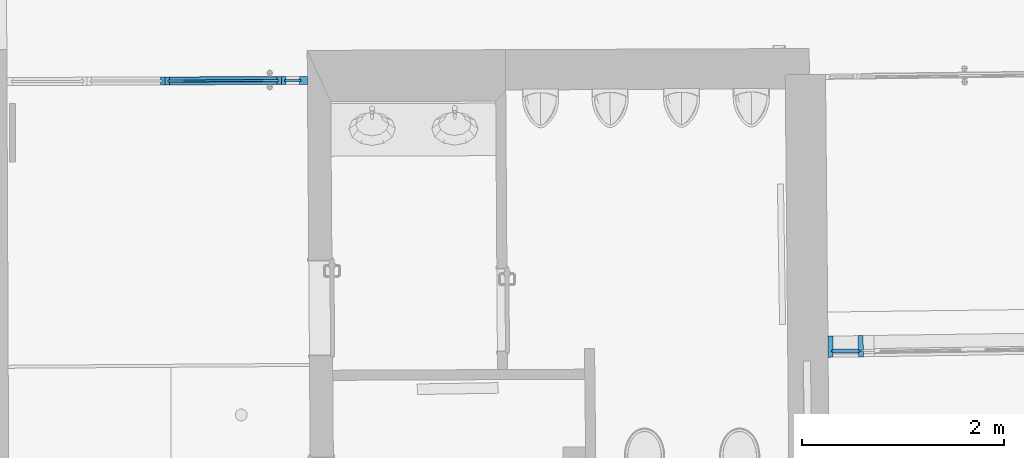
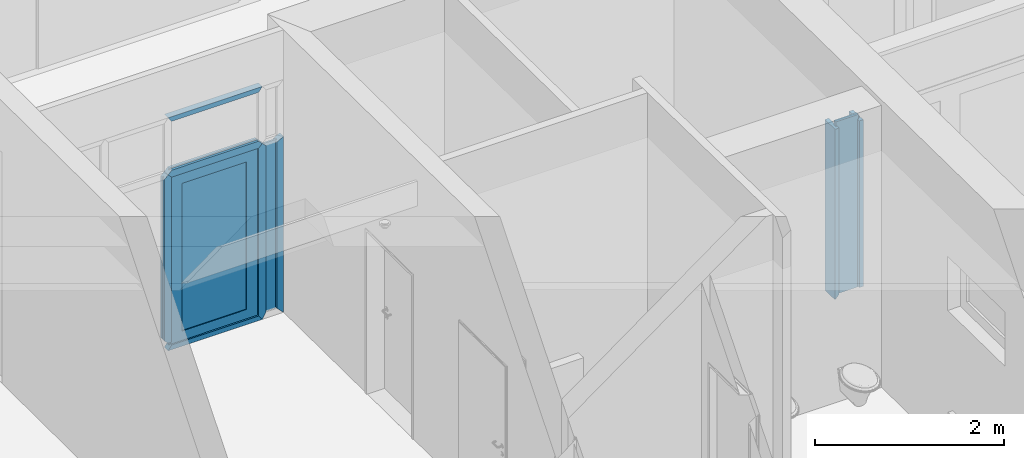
# One storey, part 125 of 196: 12 building element parts, 2 elements without a shape of their own.
"""IFC2X3 building model written with IfcOpenShell, lengths in metres."""

from ifc_helpers import new_model, entity, si_unit, converted_unit, derived_unit, money_unit, direction, frame, origin_with_axes, place, context, subcontext, project, spatial, faceted_brep, material, type_object, element, aggregate, save


model = new_model("IFC2X3")

# Units and contexts
model_context = context("Model", 3, precision=1e-05, world=origin_with_axes(), true_north=direction((0.0, 1.0)))
body_context = subcontext(model_context, "Body", "Model", "MODEL_VIEW")
ifc_project = project(units=[si_unit("LENGTHUNIT", "METRE"), si_unit("AREAUNIT", "SQUARE_METRE"), si_unit("VOLUMEUNIT", "CUBIC_METRE"), converted_unit("PLANEANGLEUNIT", "DEGREE", entity("IfcPlaneAngleMeasure", 0.0174532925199), si_unit("PLANEANGLEUNIT", "RADIAN"), dimensions=[0, 0, 0, 0, 0, 0, 0]), money_unit("EUR"), converted_unit("TIMEUNIT", "Year", entity("IfcTimeMeasure", 31556926.0), si_unit("TIMEUNIT", "SECOND"), dimensions=[0, 0, 1, 0, 0, 0, 0]), si_unit("MASSUNIT", "GRAM", prefix="KILO"), si_unit("THERMODYNAMICTEMPERATUREUNIT", "DEGREE_CELSIUS"), si_unit("LUMINOUSINTENSITYUNIT", "LUMEN"), si_unit("ENERGYUNIT", "JOULE", prefix="MEGA"), derived_unit("THERMALCONDUCTANCEUNIT", [(si_unit("POWERUNIT", "WATT"), 1), (si_unit("LENGTHUNIT", "METRE"), -1), (si_unit("THERMODYNAMICTEMPERATUREUNIT", "KELVIN"), -1)]), derived_unit("SPECIFICHEATCAPACITYUNIT", [(si_unit("ENERGYUNIT", "JOULE"), 1), (si_unit("MASSUNIT", "GRAM", prefix="KILO"), -1), (si_unit("THERMODYNAMICTEMPERATUREUNIT", "KELVIN"), -1)]), derived_unit("MASSDENSITYUNIT", [(si_unit("MASSUNIT", "GRAM", prefix="KILO"), 1), (si_unit("VOLUMEUNIT", "CUBIC_METRE"), -1)])], contexts=[model_context])

# Site, building, storey
site_placement = place(None, origin_with_axes())
site = spatial("IfcSite", under=ifc_project, at=site_placement, Name="Gelände", CompositionType="ELEMENT")
building_placement = place(site_placement, origin_with_axes())
building = spatial("IfcBuilding", under=site, at=building_placement, Name="Gebäude", CompositionType="ELEMENT")
storey_placement = place(building_placement, frame((0.0, 0.0, -3.0), z_axis=(0.0, 0.0, 1.0), x_axis=(1.0, 0.0, 0.0)))
storey = spatial("IfcBuildingStorey", under=building, at=storey_placement, Name="KELLERGESCHOSS", CompositionType="ELEMENT", Elevation=-3.0)

# Proxy, building element parts
building_element_proxy_type = type_object("IfcBuildingElementProxyType", Name="Fassadentyp", PredefinedType="NOTDEFINED")
proxy_1_placement = place(storey_placement, frame((-18.3953551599, 39.5909637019, 0.410855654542), z_axis=(0.0, 0.0, 1.0), x_axis=(1.0, 0.0, 0.0)))
proxy_1 = element("IfcBuildingElementProxy", 1, at=proxy_1_placement, inside=storey, type_object=building_element_proxy_type, Name="Fassade-002")
ifc_material_1 = material(Name="45_Glas, Normalglas")
building_element_part_1_placement = place(proxy_1_placement, origin_with_axes())
building_element_part_1 = element("IfcBuildingElementPart", 2, at=building_element_part_1_placement, material=ifc_material_1, Name="45_Glas, Normalglas", context=body_context, shape_type="Brep", body=[
    faceted_brep([(0.15192966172, 0.0222017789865, 2.25780580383), (-0.127511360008, 0.0181559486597, 2.25780580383), (-0.126932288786, -0.0218398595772, 2.25780580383), (0.152508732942, -0.0177940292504, 2.25780580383), (0.15192966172, 0.0222017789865, 2.20000001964), (0.15192966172, 0.0222017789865, 0.0350000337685), (-0.127511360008, 0.0181559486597, 0.0350000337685), (-0.127511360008, 0.0181559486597, 2.20000001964), (-0.126932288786, -0.0218398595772, 2.20000001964), (-0.126932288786, -0.0218398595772, 0.0350000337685), (0.152508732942, -0.0177940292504, 0.0350000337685), (0.152508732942, -0.0177940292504, 2.20000001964)], [[[0, 1, 2, 3]], [[0, 4, 5, 6, 7, 1]], [[1, 7, 8, 2]], [[3, 2, 8, 9, 10, 11]], [[4, 0, 3, 11]], [[5, 4, 11, 10]], [[6, 5, 10, 9]], [[7, 6, 9, 8]]]),
])
ifc_material_2 = material(Name="53_Metall, Aluminium")
building_element_part_2_placement = place(proxy_1_placement, origin_with_axes())
building_element_part_2 = element("IfcBuildingElementPart", 3, at=building_element_part_2_placement, material=ifc_material_2, Name="53_Metall, Aluminium", context=body_context, shape_type="Brep", body=[
    faceted_brep([(0.172072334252, 0.012492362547, 2.2000000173), (0.187070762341, 0.0127095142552, 2.2000000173), (0.185044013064, 0.152694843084, 2.2000000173), (0.135049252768, 0.151971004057, 2.2000000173), (0.137076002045, 0.0119856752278, 2.2000000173), (0.152074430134, 0.0122028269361, 2.2000000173), (0.152363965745, -0.00779507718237, 2.2000000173), (0.137365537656, -0.00801222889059, 2.2000000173), (0.138089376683, -0.0580069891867, 2.2000000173), (0.188084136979, -0.0572831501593, 2.2000000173), (0.187360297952, -0.00728838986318, 2.2000000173), (0.172361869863, -0.0075055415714, 2.2000000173), (0.172072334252, 0.012492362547, 0.0500000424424), (0.187070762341, 0.0127095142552, 0.0500000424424), (0.185044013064, 0.152694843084, 0.050000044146), (0.135049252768, 0.151971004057, 0.050000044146), (0.137076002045, 0.0119856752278, 0.0500000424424), (0.152074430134, 0.0122028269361, 0.0500000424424), (0.152363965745, -0.00779507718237, 0.050000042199), (0.137365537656, -0.00801222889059, 0.050000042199), (0.138089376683, -0.0580069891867, 0.0500000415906), (0.188084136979, -0.0572831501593, 0.0500000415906), (0.187360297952, -0.00728838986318, 0.050000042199), (0.172361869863, -0.0075055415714, 0.050000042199)], [[[0, 1, 2, 3, 4, 5, 6, 7, 8, 9, 10, 11]], [[1, 0, 12, 13]], [[1, 13, 14, 2]], [[2, 14, 15, 3]], [[4, 3, 15, 16]], [[4, 16, 17, 5]], [[5, 17, 18, 6]], [[7, 6, 18, 19]], [[19, 20, 8, 7]], [[8, 20, 21, 9]], [[22, 10, 9, 21]], [[11, 10, 22, 23]], [[0, 11, 23, 12]], [[23, 22, 21, 20, 19, 18, 17, 16, 15, 14, 13, 12]]]),
])
building_element_part_3_placement = place(proxy_1_placement, origin_with_axes())
building_element_part_3 = element("IfcBuildingElementPart", 4, at=building_element_part_3_placement, material=ifc_material_2, Name="53_Metall, Aluminium", context=body_context, shape_type="Brep", body=[
    faceted_brep([(-0.127366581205, 0.00815699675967, 0.0350000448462), (-0.127077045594, -0.0118409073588, 0.0350000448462), (-0.112078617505, -0.0116237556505, 0.0500000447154), (-0.111354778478, -0.0616185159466, 0.0500000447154), (-0.161349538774, -0.062342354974, 4.51515966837e-08), (-0.164389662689, 0.147635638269, 4.51515975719e-08), (-0.114394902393, 0.148359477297, 0.0500000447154), (-0.112368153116, 0.00837414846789, 0.0500000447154), (-0.127366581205, 0.00815699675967, 2.19999998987), (-0.127077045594, -0.0118409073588, 2.19999998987), (-0.112078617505, -0.0116237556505, 2.19999998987), (-0.111354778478, -0.0616185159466, 2.19999998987), (-0.161349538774, -0.062342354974, 2.19999998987), (-0.164389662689, 0.147635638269, 2.19999998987), (-0.114394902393, 0.148359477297, 2.19999998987), (-0.112368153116, 0.00837414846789, 2.19999998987)], [[[0, 1, 2, 3, 4, 5, 6, 7]], [[1, 0, 8, 9]], [[10, 2, 1, 9]], [[2, 10, 11, 3]], [[12, 4, 3, 11]], [[13, 5, 4, 12]], [[14, 6, 5, 13]], [[15, 7, 6, 14]], [[0, 7, 15, 8]], [[8, 15, 14, 13, 12, 11, 10, 9]]]),
])
aggregate(proxy_1, [building_element_part_1, building_element_part_2, building_element_part_3])

proxy_2_placement = place(storey_placement, frame((-23.852064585, 42.2751077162, 0.417602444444), z_axis=(0.0, 0.0, 1.0), x_axis=(1.0, 0.0, 0.0)))
proxy_2 = element("IfcBuildingElementProxy", 5, at=proxy_2_placement, inside=storey, type_object=building_element_proxy_type, Name="Fassade-002")
building_element_part_4_placement = place(proxy_2_placement, origin_with_axes())
building_element_part_4 = element("IfcBuildingElementPart", 6, at=building_element_part_4_placement, material=ifc_material_1, Name="45_Glas, Normalglas", context=body_context, shape_type="Brep", body=[
    faceted_brep([(0.0641194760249, 0.010256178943, 2.23924696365), (-0.0991990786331, 0.00960386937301, 2.23924696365), (-0.0991191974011, -0.0103959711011, 2.23924696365), (0.0641993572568, -0.00974366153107, 2.23924696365), (0.0641194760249, 0.010256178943, 0.0649999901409), (-0.0991990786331, 0.00960386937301, 0.0649999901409), (-0.0991191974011, -0.0103959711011, 0.0649999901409), (0.0641993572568, -0.00974366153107, 0.0649999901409)], [[[0, 1, 2, 3]], [[0, 4, 5, 1]], [[1, 5, 6, 2]], [[3, 2, 6, 7]], [[4, 0, 3, 7]], [[5, 4, 7, 6]]]),
])
building_element_part_5_placement = place(proxy_2_placement, origin_with_axes())
building_element_part_5 = element("IfcBuildingElementPart", 7, at=building_element_part_5_placement, material=ifc_material_2, Name="53_Metall, Aluminium", context=body_context, shape_type="Brep", body=[
    faceted_brep([(-0.174298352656, 0.0343041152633, 0.0599999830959), (-0.174298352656, 0.0343041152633, 2.22424697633), (-0.174278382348, 0.0293041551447, 2.22424697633), (-0.174278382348, 0.0293041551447, 0.0599999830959), (-0.219297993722, 0.0341243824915, 0.0599999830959), (-0.219297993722, 0.0341243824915, 2.17924697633), (-0.219278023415, 0.0291244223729, 2.17924697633), (-0.219278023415, 0.0291244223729, 0.0599999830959)], [[[0, 1, 2, 3]], [[0, 4, 5, 1]], [[1, 5, 6, 2]], [[3, 2, 6, 7]], [[4, 0, 3, 7]], [[5, 4, 7, 6]]]),
    faceted_brep([(-1.23715068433, 0.0300589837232, 2.22424697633), (-1.19215104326, 0.030238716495, 2.17924697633), (-1.19213107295, 0.0252387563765, 2.17924697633), (-1.23713071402, 0.0250590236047, 2.22424697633), (-0.174298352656, 0.0343041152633, 2.22424697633), (-0.219297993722, 0.0341243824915, 2.17924697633), (-0.219278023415, 0.0291244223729, 2.17924697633), (-0.174278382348, 0.0293041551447, 2.22424697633)], [[[0, 1, 2, 3]], [[0, 4, 5, 1]], [[1, 5, 6, 2]], [[3, 2, 6, 7]], [[4, 0, 3, 7]], [[5, 4, 7, 6]]]),
    faceted_brep([(-1.23715068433, 0.0300589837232, 0.0599999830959), (-1.19215104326, 0.030238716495, 0.0599999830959), (-1.19213107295, 0.0252387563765, 0.0599999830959), (-1.23713071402, 0.0250590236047, 0.0599999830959), (-1.23715068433, 0.0300589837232, 2.22424697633), (-1.19215104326, 0.030238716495, 2.17924697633), (-1.19213107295, 0.0252387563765, 2.17924697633), (-1.23713071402, 0.0250590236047, 2.22424697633)], [[[0, 1, 2, 3]], [[0, 4, 5, 1]], [[1, 5, 6, 2]], [[3, 2, 6, 7]], [[4, 0, 3, 7]], [[5, 4, 7, 6]]]),
    faceted_brep([(-0.174278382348, 0.0293041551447, 0.0599999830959), (-0.174278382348, 0.0293041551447, 2.22424697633), (-0.174078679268, -0.0206954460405, 2.22424697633), (-0.174078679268, -0.0206954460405, 0.0599999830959), (-0.194278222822, 0.0292242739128, 0.0599999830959), (-0.194278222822, 0.0292242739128, 2.20424697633), (-0.194078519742, -0.0207753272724, 2.20424697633), (-0.194078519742, -0.0207753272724, 0.0599999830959)], [[[0, 1, 2, 3]], [[0, 4, 5, 1]], [[1, 5, 6, 2]], [[3, 2, 6, 7]], [[4, 0, 3, 7]], [[5, 4, 7, 6]]]),
    faceted_brep([(-1.23713071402, 0.0250590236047, 2.22424697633), (-1.21713087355, 0.0251389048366, 2.20424697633), (-1.21693117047, -0.0248606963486, 2.20424697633), (-1.23693101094, -0.0249405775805, 2.22424697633), (-0.174278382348, 0.0293041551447, 2.22424697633), (-0.194278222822, 0.0292242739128, 2.20424697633), (-0.194078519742, -0.0207753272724, 2.20424697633), (-0.174078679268, -0.0206954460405, 2.22424697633)], [[[0, 1, 2, 3]], [[0, 4, 5, 1]], [[1, 5, 6, 2]], [[3, 2, 6, 7]], [[4, 0, 3, 7]], [[5, 4, 7, 6]]]),
    faceted_brep([(-1.23713071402, 0.0250590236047, 0.0599999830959), (-1.21713087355, 0.0251389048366, 0.0599999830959), (-1.21693117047, -0.0248606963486, 0.0599999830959), (-1.23693101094, -0.0249405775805, 0.0599999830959), (-1.23713071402, 0.0250590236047, 2.22424697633), (-1.21713087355, 0.0251389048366, 2.20424697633), (-1.21693117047, -0.0248606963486, 2.20424697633), (-1.23693101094, -0.0249405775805, 2.22424697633)], [[[0, 1, 2, 3]], [[0, 4, 5, 1]], [[1, 5, 6, 2]], [[3, 2, 6, 7]], [[4, 0, 3, 7]], [[5, 4, 7, 6]]]),
    faceted_brep([(-1.25205070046, 0.00499927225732, 0.0449999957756), (-0.159198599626, 0.00936422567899, 0.0449999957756), (-0.159118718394, -0.0106356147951, 0.0449999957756), (-1.25197081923, -0.0150005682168, 0.0449999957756), (-1.23705083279, 0.00505918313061, 0.0599999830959), (-0.174198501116, 0.00930431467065, 0.0599999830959), (-0.174118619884, -0.0106955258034, 0.0599999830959), (-1.23697095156, -0.0149406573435, 0.0599999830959)], [[[0, 1, 2, 3]], [[0, 4, 5, 1]], [[1, 5, 6, 2]], [[3, 2, 6, 7]], [[4, 0, 3, 7]], [[5, 4, 7, 6]]]),
    faceted_brep([(-0.159198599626, 0.00936422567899, 0.0449999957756), (-0.159198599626, 0.00936422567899, 2.23924696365), (-0.159118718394, -0.0106356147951, 2.23924696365), (-0.159118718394, -0.0106356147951, 0.0449999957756), (-0.174198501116, 0.00930431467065, 0.0599999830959), (-0.174198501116, 0.00930431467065, 2.22424697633), (-0.174118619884, -0.0106955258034, 2.22424697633), (-0.174118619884, -0.0106955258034, 0.0599999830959)], [[[0, 1, 2, 3]], [[0, 4, 5, 1]], [[1, 5, 6, 2]], [[3, 2, 6, 7]], [[4, 0, 3, 7]], [[5, 4, 7, 6]]]),
    faceted_brep([(-0.159198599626, 0.00936422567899, 2.23924696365), (-1.25205070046, 0.00499927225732, 2.23924696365), (-1.25197081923, -0.0150005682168, 2.23924696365), (-0.159118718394, -0.0106356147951, 2.23924696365), (-0.174198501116, 0.00930431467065, 2.22424697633), (-1.23705083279, 0.00505918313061, 2.22424697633), (-1.23697095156, -0.0149406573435, 2.22424697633), (-0.174118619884, -0.0106955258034, 2.22424697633)], [[[0, 1, 2, 3]], [[0, 4, 5, 1]], [[1, 5, 6, 2]], [[3, 2, 6, 7]], [[4, 0, 3, 7]], [[5, 4, 7, 6]]]),
    faceted_brep([(-1.25205070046, 0.00499927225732, 2.23924696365), (-1.25205070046, 0.00499927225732, 0.0449999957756), (-1.25197081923, -0.0150005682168, 0.0449999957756), (-1.25197081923, -0.0150005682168, 2.23924696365), (-1.23705083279, 0.00505918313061, 2.22424697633), (-1.23705083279, 0.00505918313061, 0.0599999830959), (-1.23697095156, -0.0149406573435, 0.0599999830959), (-1.23697095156, -0.0149406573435, 2.22424697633)], [[[0, 1, 2, 3]], [[0, 4, 5, 1]], [[1, 5, 6, 2]], [[3, 2, 6, 7]], [[4, 0, 3, 7]], [[5, 4, 7, 6]]]),
    faceted_brep([(-1.0971318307, 0.0256181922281, 0.179999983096), (-1.0971318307, 0.0256181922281, 2.08424697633), (-1.09693212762, -0.0243814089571, 2.08424697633), (-1.09693212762, -0.0243814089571, 0.179999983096), (-1.21713087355, 0.0251389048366, 0.0599999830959), (-1.21713087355, 0.0251389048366, 2.20424697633), (-1.21693117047, -0.0248606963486, 2.20424697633), (-1.21693117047, -0.0248606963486, 0.0599999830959)], [[[0, 1, 2, 3]], [[0, 4, 5, 1]], [[1, 5, 6, 2]], [[3, 2, 6, 7]], [[4, 0, 3, 7]], [[5, 4, 7, 6]]]),
    faceted_brep([(-0.194278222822, 0.0292242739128, 0.0599999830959), (-0.194278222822, 0.0292242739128, 2.20424697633), (-0.194078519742, -0.0207753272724, 2.20424697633), (-0.194078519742, -0.0207753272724, 0.0599999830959), (-0.314277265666, 0.0287449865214, 0.179999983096), (-0.314277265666, 0.0287449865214, 2.08424697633), (-0.314077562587, -0.0212546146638, 2.08424697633), (-0.314077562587, -0.0212546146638, 0.179999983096)], [[[0, 1, 2, 3]], [[0, 4, 5, 1]], [[1, 5, 6, 2]], [[3, 2, 6, 7]], [[4, 0, 3, 7]], [[5, 4, 7, 6]]]),
    faceted_brep([(-0.194278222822, 0.0292242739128, 0.0599999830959), (-0.314277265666, 0.0287449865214, 0.179999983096), (-0.314077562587, -0.0212546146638, 0.179999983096), (-0.194078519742, -0.0207753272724, 0.0599999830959), (-1.21713087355, 0.0251389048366, 0.0599999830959), (-1.0971318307, 0.0256181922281, 0.179999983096), (-1.09693212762, -0.0243814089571, 0.179999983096), (-1.21693117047, -0.0248606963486, 0.0599999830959)], [[[0, 1, 2, 3]], [[0, 4, 5, 1]], [[1, 5, 6, 2]], [[3, 2, 6, 7]], [[4, 0, 3, 7]], [[5, 4, 7, 6]]]),
    faceted_brep([(-1.21713087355, 0.0251389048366, 2.20424697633), (-1.0971318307, 0.0256181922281, 2.08424697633), (-1.09693212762, -0.0243814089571, 2.08424697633), (-1.21693117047, -0.0248606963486, 2.20424697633), (-0.194278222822, 0.0292242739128, 2.20424697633), (-0.314277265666, 0.0287449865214, 2.08424697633), (-0.314077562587, -0.0212546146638, 2.08424697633), (-0.194078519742, -0.0207753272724, 2.20424697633)], [[[0, 1, 2, 3]], [[0, 4, 5, 1]], [[1, 5, 6, 2]], [[3, 2, 6, 7]], [[4, 0, 3, 7]], [[5, 4, 7, 6]]]),
])
building_element_part_6_placement = place(proxy_2_placement, origin_with_axes())
building_element_part_6 = element("IfcBuildingElementPart", 8, at=building_element_part_6_placement, material=ifc_material_1, Name="45_Glas, Normalglas", context=body_context, shape_type="Brep", body=[
    faceted_brep([(-1.09703597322, 0.00161838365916, 0.179999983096), (-0.314181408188, 0.00474517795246, 0.179999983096), (-0.314117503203, -0.0112546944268, 0.179999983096), (-1.09697206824, -0.0143814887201, 0.179999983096), (-1.09703597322, 0.00161838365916, 2.08424697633), (-0.314181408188, 0.00474517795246, 2.08424697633), (-0.314117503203, -0.0112546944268, 2.08424697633), (-1.09697206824, -0.0143814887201, 2.08424697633)], [[[0, 1, 2, 3]], [[0, 4, 5, 1]], [[1, 5, 6, 2]], [[3, 2, 6, 7]], [[4, 0, 3, 7]], [[5, 4, 7, 6]]]),
])
building_element_part_7_placement = place(proxy_2_placement, origin_with_axes())
building_element_part_7 = element("IfcBuildingElementPart", 9, at=building_element_part_7_placement, material=ifc_material_2, Name="53_Metall, Aluminium", context=body_context, shape_type="Brep", body=[
    faceted_brep([(-0.162948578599, 0.00934924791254, 2.96000001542), (-0.174198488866, 0.00930431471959, 2.94500001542), (-0.174318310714, 0.0393040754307, 2.94500001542), (-0.129318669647, 0.0394838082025, 3.00500001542), (-0.12899914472, -0.0405155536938, 3.00500001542), (-0.173998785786, -0.0406952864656, 2.94500001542), (-0.174118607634, -0.0106955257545, 2.94500001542), (-0.162868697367, -0.0106505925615, 2.96000001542), (-1.24830073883, 0.00501424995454, 2.96000001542), (-1.23705082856, 0.00505918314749, 2.94500001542), (-1.23717065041, 0.0350589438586, 2.94500001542), (-1.28217029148, 0.0348792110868, 3.00500001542), (-1.28185076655, -0.0451201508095, 3.00500001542), (-1.23685112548, -0.0449404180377, 2.94500001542), (-1.23697094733, -0.0149406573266, 2.94500001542), (-1.2482208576, -0.0149855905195, 2.96000001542)], [[[0, 1, 2, 3, 4, 5, 6, 7]], [[0, 8, 9, 1]], [[9, 10, 2, 1]], [[2, 10, 11, 3]], [[3, 11, 12, 4]], [[4, 12, 13, 5]], [[6, 5, 13, 14]], [[14, 15, 7, 6]], [[7, 15, 8, 0]], [[8, 15, 14, 13, 12, 11, 10, 9]]]),
])
building_element_part_8_placement = place(proxy_2_placement, origin_with_axes())
building_element_part_8 = element("IfcBuildingElementPart", 10, at=building_element_part_8_placement, material=ifc_material_2, Name="53_Metall, Aluminium", context=body_context, shape_type="Brep", body=[
    faceted_brep([(-0.162948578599, 0.00934924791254, 0.045), (-0.162868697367, -0.0106505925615, 0.045), (-0.174118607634, -0.0106955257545, 0.06), (-0.173998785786, -0.0406952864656, 0.06), (-0.12899914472, -0.0405155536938, 0.0), (-0.129318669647, 0.0394838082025, 0.0), (-0.174318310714, 0.0393040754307, 0.06), (-0.174198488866, 0.00930431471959, 0.06), (-1.24830073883, 0.00501424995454, 0.045), (-1.2482208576, -0.0149855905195, 0.045), (-1.23697094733, -0.0149406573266, 0.06), (-1.23685112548, -0.0449404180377, 0.06), (-1.28185076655, -0.0451201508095, 0.0), (-1.28217029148, 0.0348792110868, 0.0), (-1.23717065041, 0.0350589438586, 0.06), (-1.23705082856, 0.00505918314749, 0.06)], [[[0, 1, 2, 3, 4, 5, 6, 7]], [[1, 0, 8, 9]], [[10, 2, 1, 9]], [[2, 10, 11, 3]], [[4, 3, 11, 12]], [[5, 4, 12, 13]], [[6, 5, 13, 14]], [[15, 7, 6, 14]], [[0, 7, 15, 8]], [[8, 15, 14, 13, 12, 11, 10, 9]]]),
])
building_element_part_9_placement = place(proxy_2_placement, origin_with_axes())
building_element_part_9 = element("IfcBuildingElementPart", 11, at=building_element_part_9_placement, material=ifc_material_2, Name="53_Metall, Aluminium", context=body_context, shape_type="Brep", body=[
    faceted_brep([(-1.25205070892, 0.00499927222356, 2.23924697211), (-1.23705082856, 0.00505918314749, 2.22424697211), (-1.23717065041, 0.0350589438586, 2.22424697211), (-1.28217029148, 0.0348792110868, 2.26924697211), (-1.28185076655, -0.0451201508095, 2.26924697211), (-1.23685112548, -0.0449404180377, 2.22424697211), (-1.23697094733, -0.0149406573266, 2.22424697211), (-1.25197082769, -0.0150005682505, 2.23924697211), (-1.25205070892, 0.00499927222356, 0.0999732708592), (-1.23705082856, 0.00505918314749, 0.0999732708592), (-1.23717065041, 0.0350589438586, 0.0999732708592), (-1.28217029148, 0.0348792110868, 0.0999732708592), (-1.32716993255, 0.034699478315, 0.139973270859), (-1.32716993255, 0.034699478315, 2.22424697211), (-1.3270501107, 0.0046997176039, 2.22424697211), (-1.31205023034, 0.00475962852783, 2.23924697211), (-1.31197034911, -0.0152402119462, 2.23924697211), (-1.32697022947, -0.0153001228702, 2.22424697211), (-1.32685040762, -0.0452998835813, 2.22424697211), (-1.32685040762, -0.0452998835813, 0.139973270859), (-1.28185076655, -0.0451201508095, 0.0999732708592), (-1.23685112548, -0.0449404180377, 0.0999732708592), (-1.23697094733, -0.0149406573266, 0.0999732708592), (-1.25197082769, -0.0150005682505, 0.0999732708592), (-1.32697022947, -0.0153001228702, 0.139973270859), (-1.31197034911, -0.0152402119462, 0.126639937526), (-1.31205023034, 0.00475962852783, 0.126639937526), (-1.3270501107, 0.0046997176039, 0.139973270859)], [[[0, 1, 2, 3, 4, 5, 6, 7]], [[1, 0, 8, 9]], [[1, 9, 10, 2]], [[11, 12, 13, 3, 2, 10]], [[3, 13, 14, 15, 16, 17, 18, 4]], [[19, 20, 21, 5, 4, 18]], [[22, 6, 5, 21]], [[7, 6, 22, 23]], [[0, 7, 23, 8]], [[23, 22, 21, 20, 11, 10, 9, 8]], [[19, 24, 25, 26, 27, 12, 11, 20]], [[14, 13, 12, 27]], [[14, 27, 26, 15]], [[15, 26, 25, 16]], [[17, 16, 25, 24]], [[24, 19, 18, 17]]]),
])
building_element_part_10_placement = place(proxy_2_placement, origin_with_axes())
building_element_part_10 = element("IfcBuildingElementPart", 12, at=building_element_part_10_placement, material=ifc_material_2, Name="53_Metall, Aluminium", context=body_context, shape_type="Brep", body=[
    faceted_brep([(-0.15919860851, 0.00936422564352, 2.23924697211), (-0.174198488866, 0.00930431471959, 2.22424697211), (-0.174318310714, 0.0393040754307, 2.22424697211), (-0.129318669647, 0.0394838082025, 2.26924697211), (-0.12899914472, -0.0405155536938, 2.26924697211), (-0.173998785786, -0.0406952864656, 2.22424697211), (-0.174118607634, -0.0106955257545, 2.22424697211), (-0.159118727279, -0.0106356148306, 2.23924697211), (-1.25205070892, 0.00499927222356, 2.23924697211), (-1.23705082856, 0.00505918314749, 2.22424697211), (-1.23717065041, 0.0350589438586, 2.22424697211), (-1.28217029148, 0.0348792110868, 2.26924697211), (-1.23717065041, 0.0350589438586, 2.31424697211), (-0.174318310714, 0.0393040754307, 2.31424697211), (-0.174198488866, 0.00930431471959, 2.31424697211), (-0.15919860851, 0.00936422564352, 2.29924697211), (-0.159118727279, -0.0106356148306, 2.29924697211), (-0.174118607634, -0.0106955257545, 2.31424697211), (-0.173998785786, -0.0406952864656, 2.31424697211), (-1.28185076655, -0.0451201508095, 2.26924697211), (-1.23685112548, -0.0449404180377, 2.22424697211), (-1.23685112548, -0.0449404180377, 2.31424697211), (-1.23697094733, -0.0149406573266, 2.22424697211), (-1.25197082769, -0.0150005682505, 2.23924697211), (-1.23697094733, -0.0149406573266, 2.31424697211), (-1.25197082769, -0.0150005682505, 2.29924697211), (-1.25205070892, 0.00499927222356, 2.29924697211), (-1.23705082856, 0.00505918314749, 2.31424697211)], [[[0, 1, 2, 3, 4, 5, 6, 7]], [[1, 0, 8, 9]], [[1, 9, 10, 2]], [[11, 12, 13, 3, 2, 10]], [[3, 13, 14, 15, 16, 17, 18, 4]], [[19, 20, 5, 4, 18, 21]], [[22, 6, 5, 20]], [[7, 6, 22, 23]], [[0, 7, 23, 8]], [[23, 22, 20, 19, 11, 10, 9, 8]], [[21, 24, 25, 26, 27, 12, 11, 19]], [[14, 13, 12, 27]], [[14, 27, 26, 15]], [[15, 26, 25, 16]], [[17, 16, 25, 24]], [[24, 21, 18, 17]]]),
])
building_element_part_11_placement = place(proxy_2_placement, origin_with_axes())
building_element_part_11 = element("IfcBuildingElementPart", 13, at=building_element_part_11_placement, material=ifc_material_2, Name="53_Metall, Aluminium", context=body_context, shape_type="Brep", body=[
    faceted_brep([(0.0641194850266, 0.010256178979, 2.23268447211), (0.0641993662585, -0.00974366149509, 2.23268447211), (0.049199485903, -0.00980357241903, 2.22424697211), (0.0493193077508, -0.0398033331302, 2.22424697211), (0.129318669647, -0.0394838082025, 2.26924697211), (0.12899914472, 0.0405155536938, 2.26924697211), (0.0489997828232, 0.0401960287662, 2.22424697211), (0.0491196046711, 0.0101962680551, 2.22424697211), (0.0641194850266, 0.010256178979, 0.065), (0.0641993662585, -0.00974366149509, 0.065), (0.049199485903, -0.00980357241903, 0.08), (0.0493193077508, -0.0398033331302, 0.08), (0.129318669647, -0.0394838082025, 0.0), (0.12899914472, 0.0405155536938, 0.0), (0.0489997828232, 0.0401960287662, 0.08), (0.0491196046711, 0.0101962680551, 0.08)], [[[0, 1, 2, 3, 4, 5, 6, 7]], [[1, 0, 8, 9]], [[10, 2, 1, 9]], [[2, 10, 11, 3]], [[3, 11, 12, 4]], [[4, 12, 13, 5]], [[5, 13, 14, 6]], [[15, 7, 6, 14]], [[0, 7, 15, 8]], [[8, 15, 14, 13, 12, 11, 10, 9]]]),
])
building_element_part_12_placement = place(proxy_2_placement, origin_with_axes())
building_element_part_12 = element("IfcBuildingElementPart", 14, at=building_element_part_12_placement, material=ifc_material_2, Name="53_Metall, Aluminium", context=body_context, shape_type="Brep", body=[
    faceted_brep([(-0.0991990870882, 0.00960386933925, 2.23924697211), (-0.0841992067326, 0.00966378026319, 2.22424697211), (-0.0843190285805, 0.0396635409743, 2.22424697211), (-0.129318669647, 0.0394838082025, 2.26924697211), (-0.12899914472, -0.0405155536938, 2.26924697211), (-0.0839995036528, -0.040335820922, 2.22424697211), (-0.0841193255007, -0.0103360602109, 2.22424697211), (-0.0991192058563, -0.0103959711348, 2.23924697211), (-0.0991990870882, 0.00960386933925, 0.0533333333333), (-0.0841992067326, 0.00966378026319, 0.08), (-0.0843190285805, 0.0396635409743, 0.08), (-0.129318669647, 0.0394838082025, 0.0), (-0.174318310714, 0.0393040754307, 0.06), (-0.174318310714, 0.0393040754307, 2.22424697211), (-0.174198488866, 0.00930431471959, 2.22424697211), (-0.15919860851, 0.00936422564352, 2.23924697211), (-0.159118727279, -0.0106356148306, 2.23924697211), (-0.174118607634, -0.0106955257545, 2.22424697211), (-0.173998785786, -0.0406952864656, 2.22424697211), (-0.12899914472, -0.0405155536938, 0.0), (-0.0839995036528, -0.040335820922, 0.08), (-0.173998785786, -0.0406952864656, 0.06), (-0.0841193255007, -0.0103360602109, 0.08), (-0.0991192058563, -0.0103959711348, 0.0533333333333), (-0.174118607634, -0.0106955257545, 0.06), (-0.159118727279, -0.0106356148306, 0.04), (-0.15919860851, 0.00936422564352, 0.04), (-0.174198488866, 0.00930431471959, 0.06)], [[[0, 1, 2, 3, 4, 5, 6, 7]], [[1, 0, 8, 9]], [[1, 9, 10, 2]], [[11, 12, 13, 3, 2, 10]], [[3, 13, 14, 15, 16, 17, 18, 4]], [[19, 20, 5, 4, 18, 21]], [[22, 6, 5, 20]], [[7, 6, 22, 23]], [[0, 7, 23, 8]], [[23, 22, 20, 19, 11, 10, 9, 8]], [[21, 24, 25, 26, 27, 12, 11, 19]], [[14, 13, 12, 27]], [[14, 27, 26, 15]], [[15, 26, 25, 16]], [[17, 16, 25, 24]], [[24, 21, 18, 17]]]),
])
aggregate(proxy_2, [building_element_part_4, building_element_part_5, building_element_part_6, building_element_part_7, building_element_part_8, building_element_part_9, building_element_part_10, building_element_part_11, building_element_part_12])

save(model, "model.ifc")
